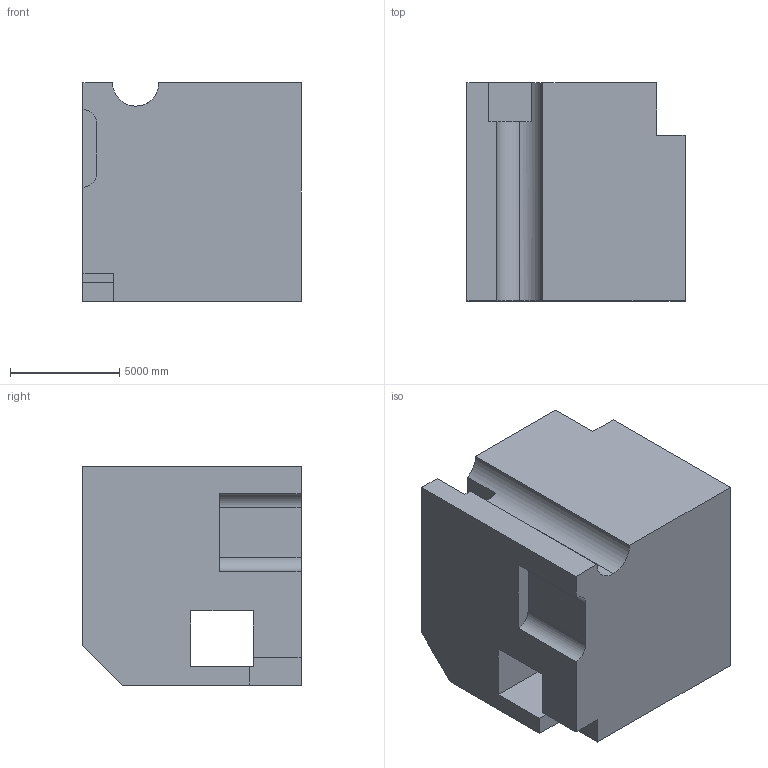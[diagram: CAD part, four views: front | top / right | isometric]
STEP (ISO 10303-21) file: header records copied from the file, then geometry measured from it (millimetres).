
FILE_DESCRIPTION (( 'STEP AP203' ), '1' );
FILE_NAME ('622.STEP', '2022-07-29T12:08:53', ( 'user' ), ( '' ), 'SwSTEP 2.0', 'SolidWorks 2021', '' );
FILE_SCHEMA (( 'CONFIG_CONTROL_DESIGN' ));
Length unit declared in the file: centimetre
Products named in the file (1): 622
Bounding box: 10000 x 10000 x 10000 mm (x, y, z)
Volume: 832272657295.8 mm3; surface area: 697112091.2 mm2
Topology: 1 solids, 1 shells, 27 faces, 78 edges, 52 vertices
Faces by surface type: plane 23, cylinder 4
Entity records: 962 total; most frequent: CARTESIAN_POINT 158, ORIENTED_EDGE 156, DIRECTION 143, EDGE_CURVE 78, VECTOR 69, LINE 69, VERTEX_POINT 52, AXIS2_PLACEMENT_3D 37
